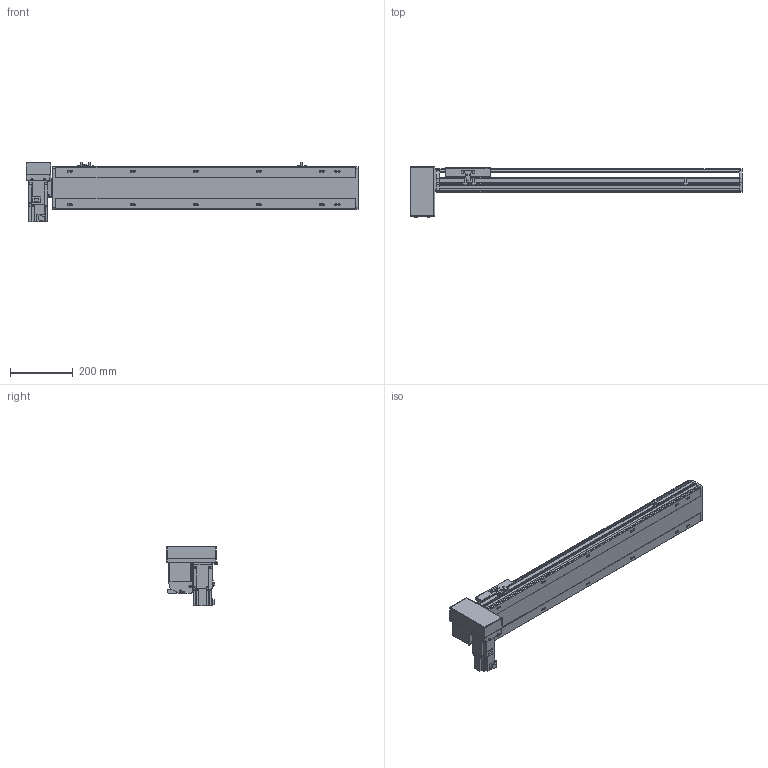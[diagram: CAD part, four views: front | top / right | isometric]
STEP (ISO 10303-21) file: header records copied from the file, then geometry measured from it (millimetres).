
FILE_DESCRIPTION( ( 'STEP AP214' ), '1' );
FILE_NAME( 'x:/temp/worker_1/temp/exporttempdir_5824_73_3M4kI/format_0/PBS140-P40-S700-RD-T40-C1-N(0).stp', '2022-06-07T05:34:42', ( 'License CC BY-ND 4.0' ), ( 'CADENAS' ), ' ', 'PARTsolutions', ' ' );
FILE_SCHEMA( ( 'AUTOMOTIVE_DESIGN { 1 0 10303 214 1 1 1 1 }' ) );
Length unit declared in the file: millimetre
Products named in the file (7): PBS140-P40-S700-RD-T40-C1-N(0); _PBS140-S700()_body; _PBS140T-RD_motors; _T40-p1; _PBS140_sliser; _PBS140_plant; _PBS140_sensor
Assembly tree (8 placements, depth 2):
  PBS140-P40-S700-RD-T40-C1-N(0)
    _PBS140-S700()_body
    _PBS140T-RD_motors
    _T40-p1
    _PBS140_sliser
    _PBS140_plant
    _PBS140_sensor  x3
Bounding box: 1054 x 162 x 189.7 mm (x, y, z)
Volume: 5253846.4 mm3; surface area: 932263.9 mm2
Topology: 8 solids, 8 shells, 1043 faces, 2756 edges, 1801 vertices
Faces by surface type: plane 680, cylinder 315, cone 38, sphere 8, torus 2
Full cylindrical faces by diameter (mm): 3.242 x4, 4 x2, 4.134 x4, 4.4 x8, 4.5 x2, 4.8 x4, 4.917 x20, 5.5 x7, 6 x2, 7 x14, 7.5 x8, 8 x12, 8.5 x4, 10.5 x12, 14 x1, 30 x2, 50 x2
Entity records: 38005 total; most frequent: CARTESIAN_POINT 5915, DIRECTION 5057, ORIENTED_EDGE 4792, EDGE_CURVE 2396, AXIS2_PLACEMENT_3D 1747, VERTEX_POINT 1653, LINE 1563, VECTOR 1563
